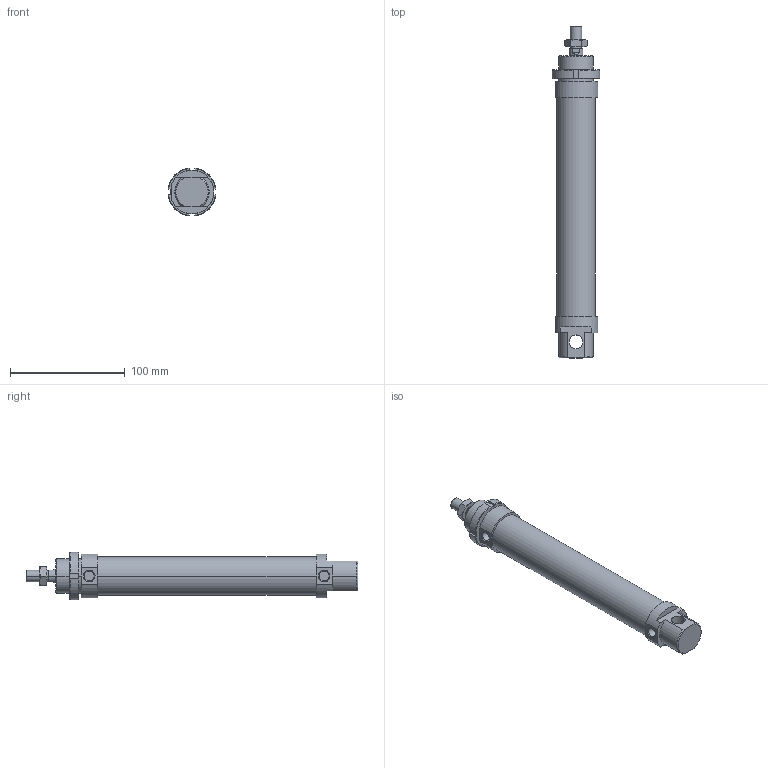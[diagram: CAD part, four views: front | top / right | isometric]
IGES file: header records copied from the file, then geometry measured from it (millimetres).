
Global section: file name: No Iges File Name specified; native system: AutoDesk Inventor R6.0; preprocessor: AutoDesk Inventor Iges Exporter R6.0; author: No Author specified; organization: No Organization specified; date: 20030407.191802; units: millimetre
Bounding box: 41.7 x 289 x 41.7 mm (x, y, z)
Volume: 234695.2 mm3; surface area: 50640.2 mm2
Topology: 4 solids, 4 shells, 122 faces, 286 edges, 180 vertices
Faces by surface type: plane 44, cone 30, cylinder 22, bspline 20, revolution 6
